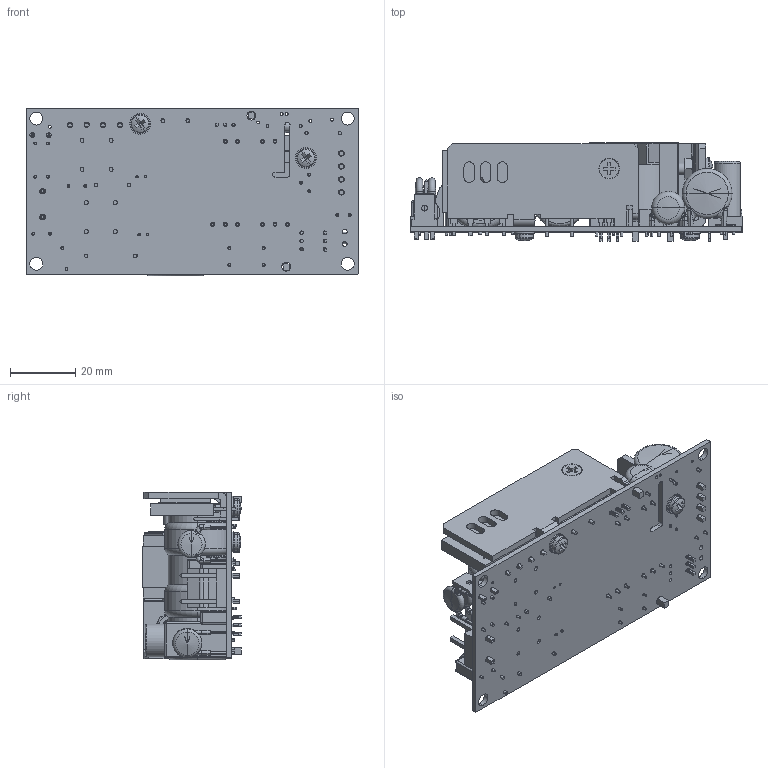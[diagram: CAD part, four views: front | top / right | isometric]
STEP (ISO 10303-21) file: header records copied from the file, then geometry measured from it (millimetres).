
FILE_DESCRIPTION (( 'STEP AP214' ), '1' );
FILE_NAME ('ECS100-12-48V-SINGLE-OUTPUT .STEP', '2010-06-23T16:56:19', ( 'ALL' ), ( 'XP Power' ), 'SwSTEP 2.0', 'SolidWorks 2010', '' );
FILE_SCHEMA (( 'AUTOMOTIVE_DESIGN' ));
Length unit declared in the file: inch
Products named in the file (33): Nut_hex_6-32_RP_KEPS; Screw_PHP_no6_.375L; 1000727601; TO-220_3P-1; 1000727703; POT_TOP-ADJ_01; FW_sp_4; Screw_Flat Head Phillips (Metric)_(1315)_M3 x 10; TO-220_3P-2; output heatsink 03; Xxmr_1050x1150x1000_12p; Inductor Toroid_8.0mm OD_3.5mm Width; Capacitor Elec_8mm D_20mm; Screw_Sq Cone_no 4_01_.250"; Capacitor Elec_10mm D_25mm; Capacitor Film_18x11mm_15 LS_19mm H; Inductor Toroid_20.0mm OD_10mm Width; Capacitor Disc_0.300 D X .40 LS; CAP-ELE_18X46MM_HOZ-1; Capacitor Disc_0.400 D X .40 LS; Bridge Rectifier_GBU6K_Lead trimed; Therm_.350 D X .250 LS; Capacitor Film_13x06mm_10 LS_12mm H; Capacitor Disc_0.500 D_0.400" C; Conn_MLX_KK156_Hdr_04P; CON MLX  .156 3P; Fuse Mini Box; CAP-ELE_6_3X11MM_HOZ; CAP-ELE_5X11MM_HOZ; Faston .25 X .032; input heatsink; 1000727503; ECS100-12-48V-SINGLE-OUTPUT 
Assembly tree (38 placements, depth 3):
  ECS100-12-48V-SINGLE-OUTPUT 
    CAP-ELE_5X11MM_HOZ
    Capacitor Disc_0.300 D X .40 LS  x2
    Inductor Toroid_8.0mm OD_3.5mm Width
    CAP-ELE_6_3X11MM_HOZ
    Capacitor Film_13x06mm_10 LS_12mm H
    Capacitor Disc_0.400 D X .40 LS
    Inductor Toroid_20.0mm OD_10mm Width  x2
    Fuse Mini Box  x2
    Screw_Sq Cone_no 4_01_.250"  x2
    Capacitor Disc_0.500 D_0.400" C
    Faston .25 X .032
    1000727503
    Capacitor Film_18x11mm_15 LS_19mm H
    Capacitor Elec_10mm D_25mm  x2
    Xxmr_1050x1150x1000_12p
    Bridge Rectifier_GBU6K_Lead trimed
    CAP-ELE_18X46MM_HOZ-1
    Conn_MLX_KK156_Hdr_04P
    CON MLX  .156 3P
    output heatsink 03
      Nut_hex_6-32_RP_KEPS
      Screw_PHP_no6_.375L
      1000727703
      TO-220_3P-1
    input heatsink
      TO-220_3P-2
      FW_sp_4
      Nut_hex_6-32_RP_KEPS
      Screw_Flat Head Phillips (Metric)_(1315)_M3 x 10
      1000727601
    Therm_.350 D X .250 LS
    POT_TOP-ADJ_01
    Capacitor Elec_8mm D_20mm
Bounding box: 101.6 x 30.21 x 51.32 mm (x, y, z)
Volume: 59622.2 mm3; surface area: 41329.8 mm2
Topology: 36 solids, 46 shells, 1683 faces, 4099 edges, 2557 vertices
Faces by surface type: plane 849, cylinder 588, torus 138, cone 62, bspline 24, sphere 22
Entity records: 58443 total; most frequent: CARTESIAN_POINT 11946, DIRECTION 7630, ORIENTED_EDGE 6960, EDGE_CURVE 3480, AXIS2_PLACEMENT_3D 2798, VERTEX_POINT 2214, VECTOR 2034, LINE 2034
